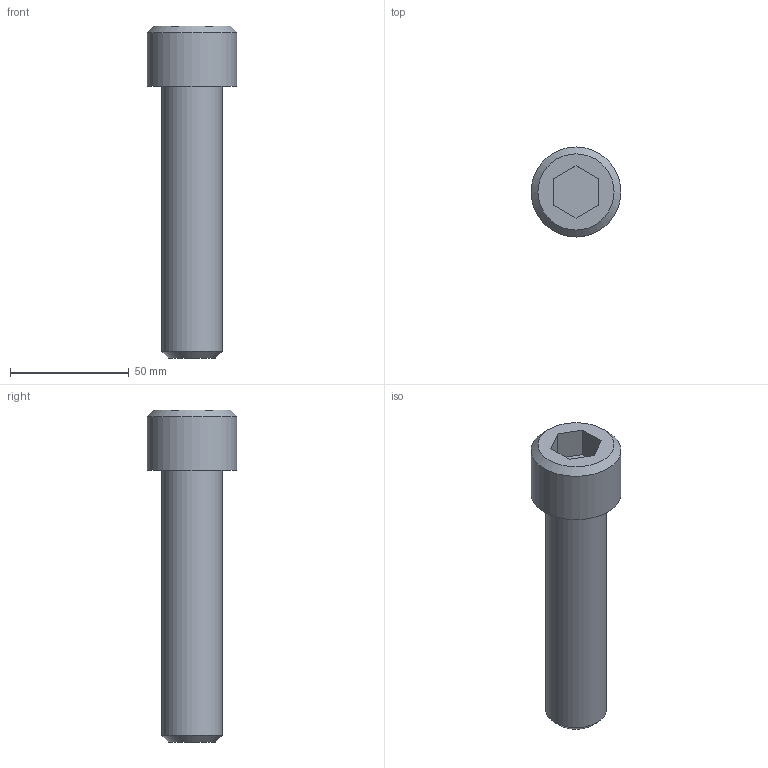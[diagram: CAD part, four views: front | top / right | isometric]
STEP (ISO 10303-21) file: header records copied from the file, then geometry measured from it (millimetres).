
FILE_DESCRIPTION((''),'2;1');
FILE_NAME('C:\Users\Stan\Desktop\import\SHCS 1-8 UNCx4.5.ipt.step','2011-08-18T17:44:18',(''),(''),'Autodesk Inventor 2012','Autodesk Inventor 2012','');
FILE_SCHEMA(('AUTOMOTIVE_DESIGN { 1 0 10303 214 1 1 1 1 }'));
Length unit declared in the file: inch
Products named in the file (1): SHCS 1-8 UNCx4.5
Bounding box: 37.8 x 37.8 x 139.55 mm (x, y, z)
Volume: 81509.6 mm3; surface area: 14833.5 mm2
Topology: 1 solids, 1 shells, 14 faces, 28 edges, 18 vertices
Faces by surface type: plane 10, cone 2, cylinder 2
Full cylindrical faces by diameter (mm): 25.4 x1, 37.795 x1
Entity records: 391 total; most frequent: DIRECTION 60, CARTESIAN_POINT 57, ORIENTED_EDGE 48, EDGE_CURVE 24, AXIS2_PLACEMENT_3D 21, EDGE_LOOP 20, VERTEX_POINT 18, VECTOR 18
